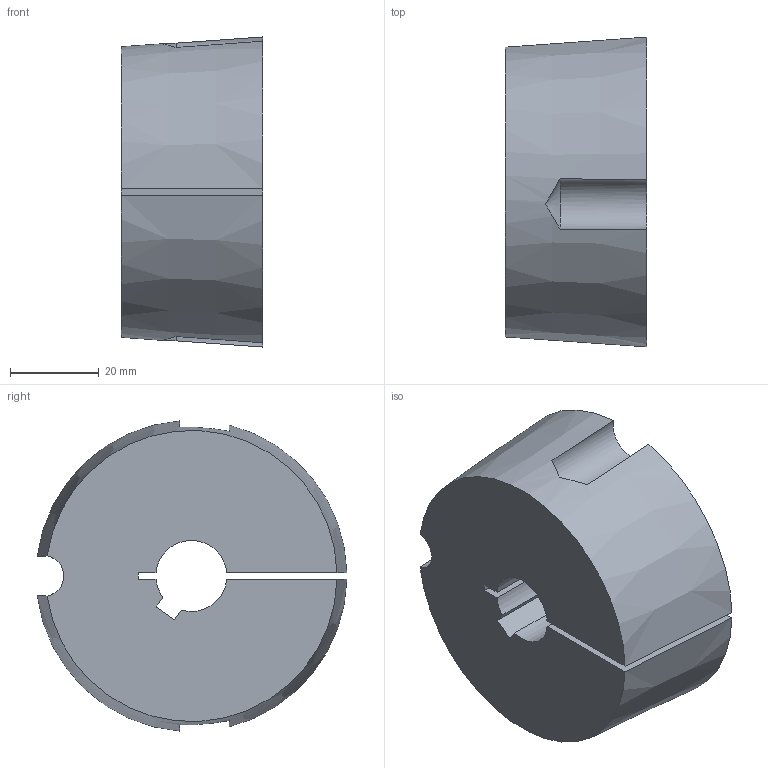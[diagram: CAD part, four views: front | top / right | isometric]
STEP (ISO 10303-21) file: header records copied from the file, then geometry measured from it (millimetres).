
FILE_DESCRIPTION( ( 'STEP AP203' ), '1' );
FILE_NAME( 'D:/export/antriebselemente/spannbuchsen_und_spannsaetze/taper-spannbuchsen_1008_bis_5050/taper-spannbuchsen_62250516Isometric_111.stp', '2018-12-11T11:11:11', ( '' ), ( '' ), ' ', 'PARTsolutions', ' ' );
FILE_SCHEMA( ( 'CONFIG_CONTROL_DESIGN' ) );
Length unit declared in the file: millimetre
Products named in the file (1): _taper-spannbuchsen_62250516
Bounding box: 31.8 x 69.72 x 69.81 mm (x, y, z)
Volume: 102968.9 mm3; surface area: 17408.1 mm2
Topology: 1 solids, 1 shells, 20 faces, 54 edges, 36 vertices
Faces by surface type: plane 10, cylinder 6, cone 4
Entity records: 752 total; most frequent: CARTESIAN_POINT 203, ORIENTED_EDGE 108, DIRECTION 104, EDGE_CURVE 54, AXIS2_PLACEMENT_3D 39, VERTEX_POINT 36, LINE 26, VECTOR 26
